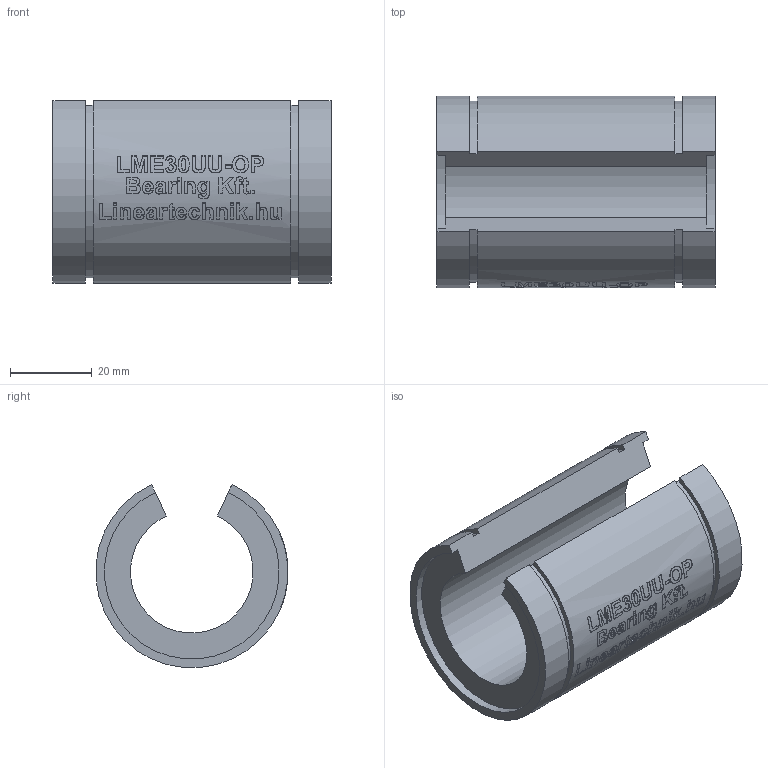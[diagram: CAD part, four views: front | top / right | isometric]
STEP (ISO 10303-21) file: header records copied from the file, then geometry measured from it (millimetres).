
FILE_DESCRIPTION(/* description */ (''),/* implementation_level */ '2;1');
FILE_NAME(/* name */ 'LME30UU-OP',/* time_stamp */ '2019-07-02T16:23:09+02:00',/* author */ ('VĂ©gh MĂˇtĂ©'),/* organization */ ('Bearing Kft'),/* preprocessor_version */ 'ST-DEVELOPER v16.7',/* originating_system */ 'DEX',/* authorisation */ $);
FILE_SCHEMA (('AUTOMOTIVE_DESIGN {1 0 10303 214 3 1 1}'));
Length unit declared in the file: millimetre
Products named in the file (1): LME30UU-OP
Bounding box: 68 x 46.92 x 44.75 mm (x, y, z)
Volume: 57214.2 mm3; surface area: 17851.7 mm2
Topology: 1 solids, 1 shells, 335 faces, 847 edges, 565 vertices
Faces by surface type: plane 177, bspline 99, cylinder 59
Entity records: 19683 total; most frequent: CARTESIAN_POINT 12106, ORIENTED_EDGE 1684, DIRECTION 1281, EDGE_CURVE 842, VERTEX_POINT 565, LINE 473, VECTOR 473, AXIS2_PLACEMENT_3D 404
